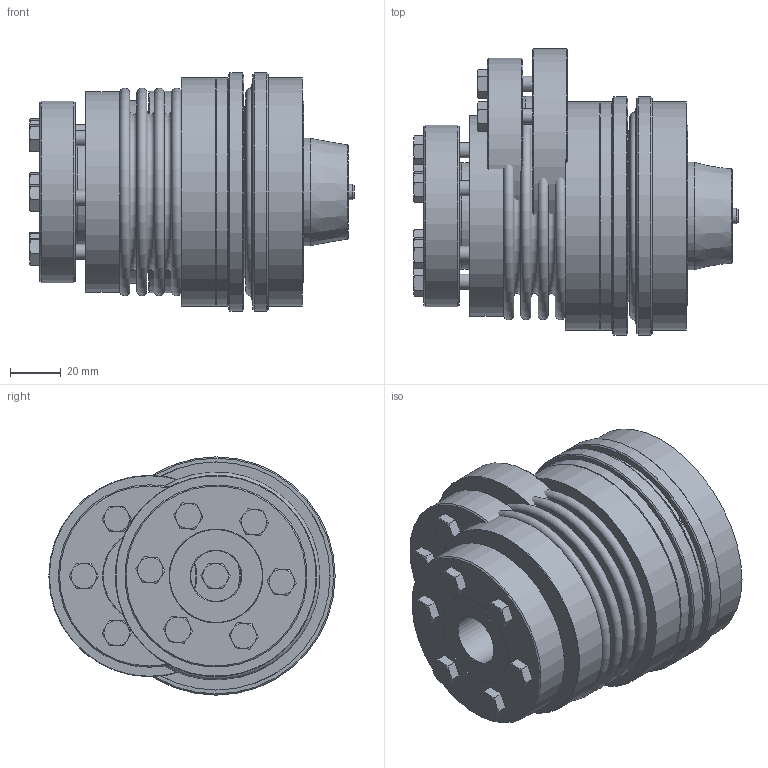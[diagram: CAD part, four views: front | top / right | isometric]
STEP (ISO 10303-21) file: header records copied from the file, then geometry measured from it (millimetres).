
FILE_DESCRIPTION( ( 'Unknown' ), '1' );
FILE_NAME( 'C:/Dokumente und Einstellungen/SKarpstein/Desktop/Korrigierte 3D Modelle/KBK-B-AI/KBK-BAI-80-108.stp', 'Unknown', ( 'Unknown' ), ( 'Unknown' ), 'XStep 1.0', 'Unknown', ' ' );
FILE_SCHEMA( ( 'automotive_design' ) );
Length unit declared in the file: millimetre
Products named in the file (12): Assem1; Assem2; BA80-150_Standard; Hex Screw GradeC_DIN_ISO 4018 - M6 x 30-NN; DR80-150_Standard; KBK L-I-80 Grundkörper_0; Konusbuchse 80_0; Stellring 80; Druckring 80; din_en_24017_m6x25; Flansch BK150; BK80-150_Standard_3
Bounding box: 128.1 x 112.93 x 94 mm (x, y, z)
Volume: 753890.3 mm3; surface area: 339161.1 mm2
Topology: 38 solids, 38 shells, 771 faces, 1627 edges, 1035 vertices
Faces by surface type: plane 335, cone 230, cylinder 167, torus 39
Full cylindrical faces by diameter (mm): 3.242 x6, 4.917 x18, 5 x26, 5.2 x6, 6 x20, 6.6 x30, 8.8 x7, 20 x3, 30 x4, 37.5 x2, 40 x4, 41 x2, 42.29 x3, 48 x2, 52 x2, 59.5 x2, 62 x4, 70 x2, 70.7 x4, 71.9 x4, 72 x3, 79.5 x3, 85 x2, 87 x2, 90 x4, 94 x2
Entity records: 6217 total; most frequent: CARTESIAN_POINT 1292, DIRECTION 990, ORIENTED_EDGE 634, AXIS2_PLACEMENT_3D 467, EDGE_LOOP 440, EDGE_CURVE 317, FACE_OUTER_BOUND 304, VERTEX_POINT 269
